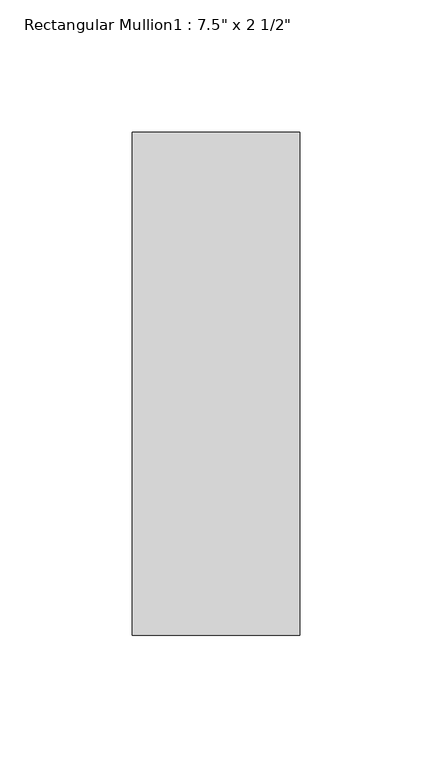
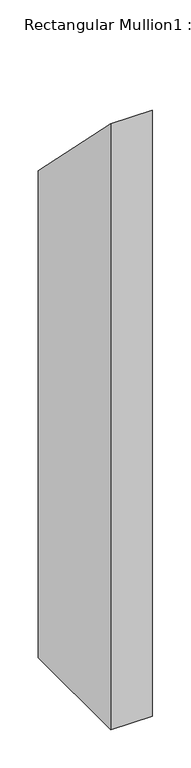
"""IFC4 building model written with IfcOpenShell, lengths in millimetres: member geometry."""

from ifc_helpers import new_model, si_unit, frame, origin, place, context, project, spatial, polyline, outline, extrude, source, transform, mapped, element, save


def member_cdc2922f(model_context):
    return source(origin(), model_context, "Body", "SweptSolid", [
        extrude(outline(polyline([(-25.4, 25.4), (165.1, -165.1), (165.1, -946.15), (-25.4, -946.15), (-25.4, 25.4)])), frame((-31.75, 0.0, 0.0), z_axis=(1.0, 0.0, 0.0), x_axis=(0.0, 1.0, 0.0)), (0.0, 0.0, 1.0), 63.5),
    ])


if __name__ == "__main__":
    model = new_model("IFC4")
    model_context = context("Model", 3, world=origin())
    ifc_project = project(units=[si_unit("LENGTHUNIT", "METRE", prefix="MILLI")], contexts=[model_context])
    site = spatial("IfcSite", under=ifc_project)
    building = spatial("IfcBuilding", under=site)
    placement = place(None, origin())
    member_shape = member_cdc2922f(model_context)
    element("IfcMember", 1, ObjectType="Rectangular Mullion1 : 7.5\" x 2 1/2\"", at=placement, inside=building, context=model_context, shape_type="MappedRepresentation", body=[
        mapped(member_shape, transform((0.0, 0.0, 0.0), x_axis=(1.0, 0.0, 0.0), y_axis=(0.0, 1.0, 0.0), z_axis=(0.0, 0.0, 1.0))),
    ])
    save(model, "model.ifc")
